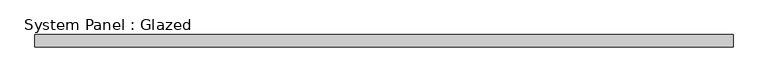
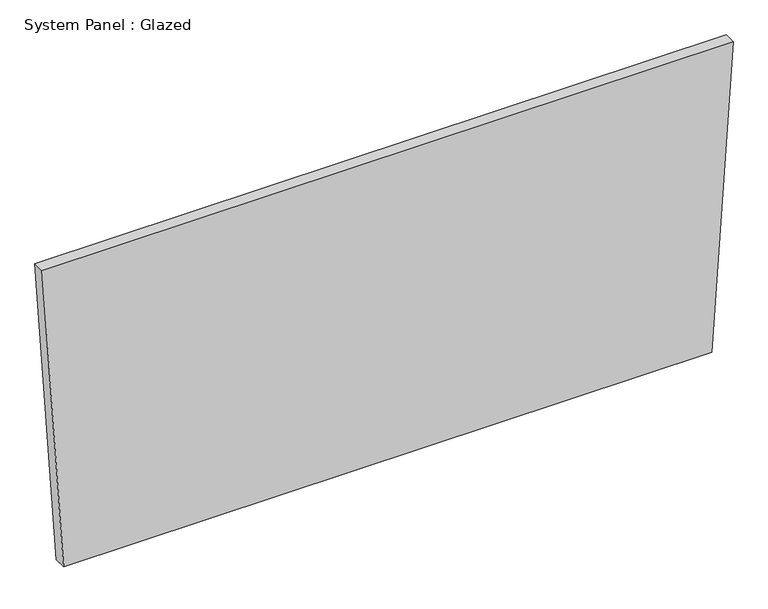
"""IFC4 building model written with IfcOpenShell, lengths in millimetres: plate geometry, System Panel : Glazed."""

from ifc_helpers import new_model, si_unit, frame, origin, place, context, project, spatial, polyline, outline, extrude, source, transform, mapped, element, save


def system_panel_glazed_d4b71dd6(model_context):
    return source(origin(), model_context, "Body", "SweptSolid", [
        extrude(outline(polyline([(0.0, -670.642021), (0.0004693, 670.6420189), (663.6729218, 715.3185421), (663.6724212, -715.3185421), (0.0, -670.642021)])), frame((0.0, 19.05, 0.0), z_axis=(0.0, 1.0, 0.0), x_axis=(0.0, 0.0, 1.0)), (0.0, 0.0, 1.0), 25.4),
    ])


if __name__ == "__main__":
    model = new_model("IFC4")
    model_context = context("Model", 3, world=origin())
    ifc_project = project(units=[si_unit("LENGTHUNIT", "METRE", prefix="MILLI")], contexts=[model_context])
    site = spatial("IfcSite", under=ifc_project)
    building = spatial("IfcBuilding", under=site)
    placement = place(None, origin())
    system_panel_glazed_shape = system_panel_glazed_d4b71dd6(model_context)
    element("IfcPlate", 1, ObjectType="System Panel : Glazed", at=placement, inside=building, context=model_context, shape_type="MappedRepresentation", body=[
        mapped(system_panel_glazed_shape, transform((0.0, 0.0, 0.0), x_axis=(1.0, 0.0, 0.0), y_axis=(0.0, 1.0, 0.0), z_axis=(0.0, 0.0, 1.0))),
    ])
    save(model, "model.ifc")
